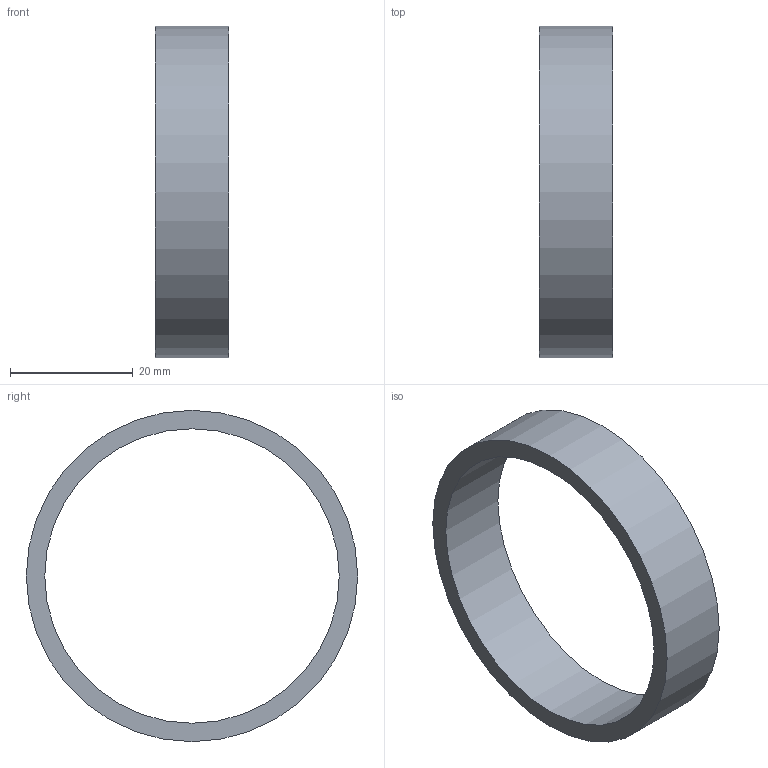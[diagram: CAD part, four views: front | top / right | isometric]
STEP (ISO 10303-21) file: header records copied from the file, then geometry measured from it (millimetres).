
FILE_DESCRIPTION(('Open CASCADE Model'),'2;1');
FILE_NAME('Open CASCADE Shape Model','2026-10-17T16:45:05',('Author'),( 'Open CASCADE'),'Open CASCADE STEP processor 8.0','build123d', 'Unknown');
FILE_SCHEMA(('AUTOMOTIVE_DESIGN { 1 0 10303 214 1 1 1 1 }'));
Length unit declared in the file: millimetre
Products named in the file (1): COMPOUND
Bounding box: 12 x 54 x 54 mm (x, y, z)
Volume: 5768 mm3; surface area: 4806.6 mm2
Topology: 1 solids, 1 shells, 4 faces, 6 edges, 4 vertices
Faces by surface type: cylinder 2, plane 2
Full cylindrical faces by diameter (mm): 48 x1, 54 x1
Entity records: 186 total; most frequent: DIRECTION 32, CARTESIAN_POINT 27, ORIENTED_EDGE 12, PCURVE 12, DEFINITIONAL_REPRESENTATION 12, LINE 10, VECTOR 10, AXIS2_PLACEMENT_3D 9
